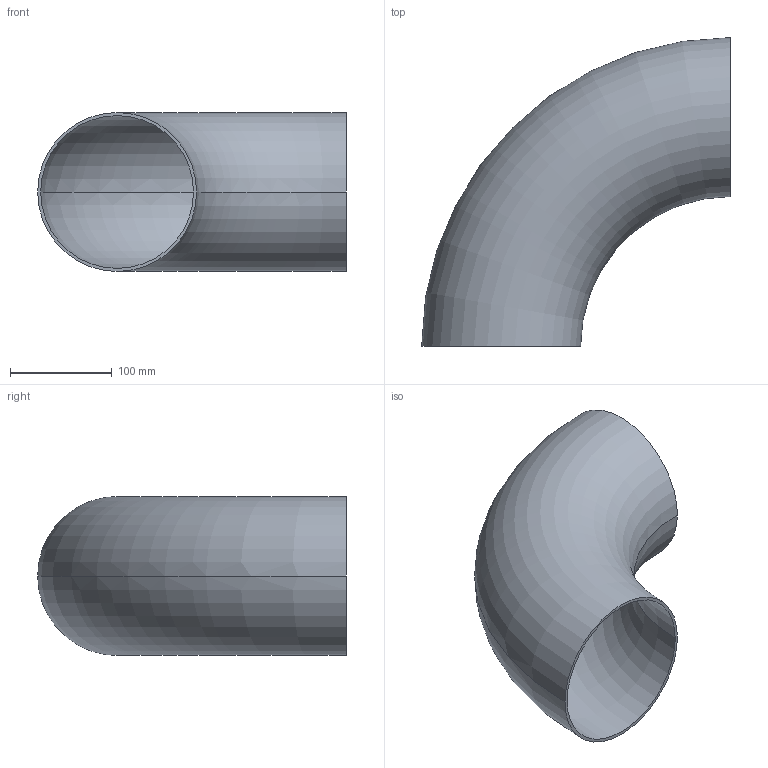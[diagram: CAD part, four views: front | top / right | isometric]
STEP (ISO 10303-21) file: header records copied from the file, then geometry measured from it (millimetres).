
FILE_DESCRIPTION (( 'STEP AP203' ), '1' );
FILE_NAME ('OT212-150-156x3_OSTP.step', '2020-12-16T02:52:09', ( '' ), ( '' ), 'SwSTEP 2.0', 'SolidWorks 2014', '' );
FILE_SCHEMA (( 'CONFIG_CONTROL_DESIGN' ));
Length unit declared in the file: millimetre
Products named in the file (1): OT212-150-156x3_OSTP
Bounding box: 303 x 303 x 156 mm (x, y, z)
Volume: 509641.7 mm3; surface area: 342645.1 mm2
Topology: 1 solids, 1 shells, 6 faces, 12 edges, 8 vertices
Faces by surface type: torus 4, plane 2
Entity records: 249 total; most frequent: DIRECTION 38, CARTESIAN_POINT 27, ORIENTED_EDGE 24, AXIS2_PLACEMENT_3D 19, CIRCLE 12, EDGE_CURVE 12, EDGE_LOOP 8, VERTEX_POINT 8
